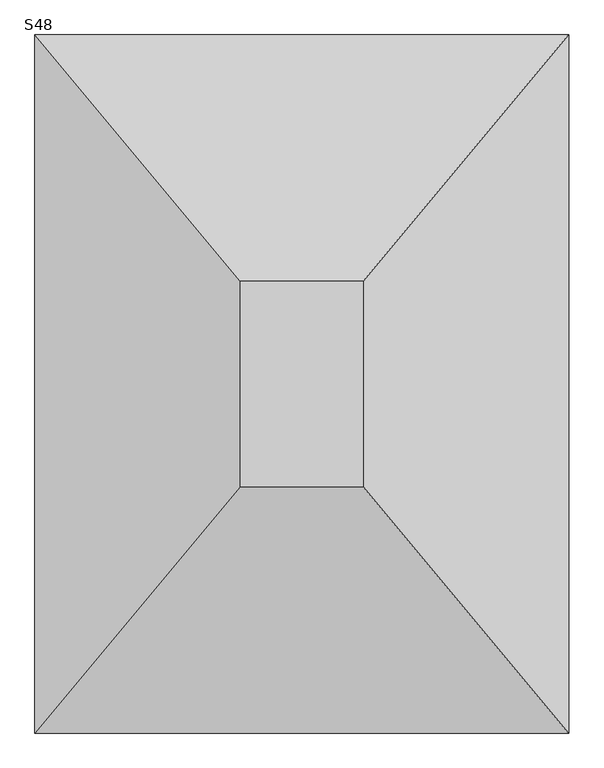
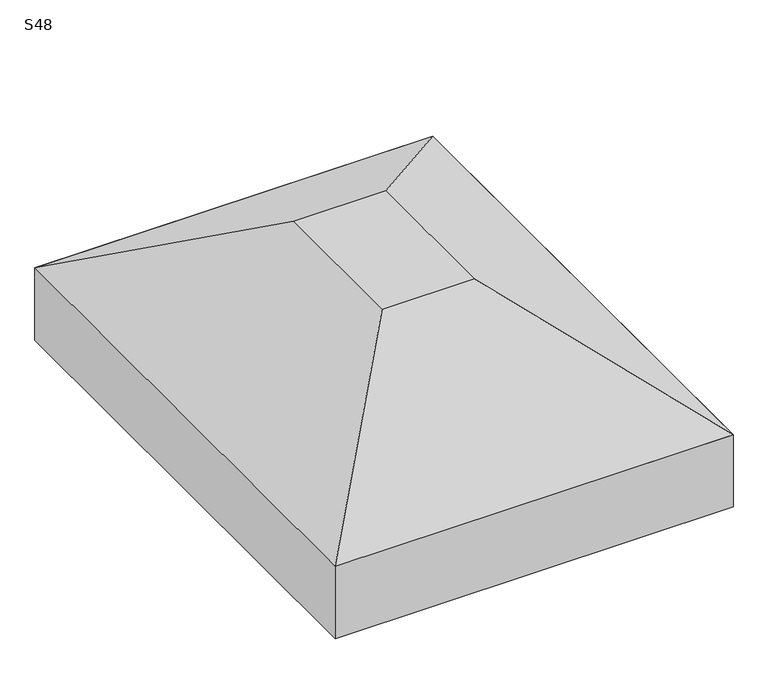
"""IFC4 building model written with IfcOpenShell, lengths in millimetres: fastener geometry, TQS - Sapata : S48."""

import ifcopenshell
import ifcopenshell.guid

model = None  # the IFC model being written
_history = None  # IfcOwnerHistory: only IFC2X3 demands one
_inside = {}  # id of a spatial element -> (the spatial element, [elements in it])
_under = {}  # id of a project, library or spatial element -> (it, [spatial elements below it])
_declared = {}  # id of a project -> (the project, [libraries it declares])
_typed = {}  # id of a type object -> (the type object, [elements of that type])
_made_of = {}  # id of a material, layer set ... -> (it, [elements and type objects made of it])


def new_model(schema):
    """Start an empty IFC model of exactly this schema.

    Asked for "IFC4X3", IfcOpenShell would pick the latest addendum, in which some entities
    have other attributes; the version numbers below select the first issue.
    IFC2X3 requires an IfcOwnerHistory on every rooted entity: one is made here for all.
    """
    global model, _history
    if schema == "IFC4X3":
        model = ifcopenshell.file(schema_version=(4, 3, 0, 0))
    else:
        model = ifcopenshell.file(schema=schema)
    _inside.clear()
    _under.clear()
    _declared.clear()
    _typed.clear()
    _made_of.clear()
    _history = None
    if model.schema == "IFC2X3":
        org = make("IfcOrganization", Name="unknown")
        user = make(
            "IfcPersonAndOrganization",
            ThePerson=make("IfcPerson", FamilyName="unknown"),
            TheOrganization=org,
        )
        app = make(
            "IfcApplication",
            ApplicationDeveloper=org,
            Version="unknown",
            ApplicationFullName="unknown",
            ApplicationIdentifier="unknown",
        )
        _history = make(
            "IfcOwnerHistory",
            OwningUser=user,
            OwningApplication=app,
            ChangeAction="ADDED",
            CreationDate=0,
        )
    return model


def make(cls, **values):
    """One entity of the class cls with the attributes given. An attribute that is None is left unset."""
    return model.create_entity(
        cls, **{name: value for name, value in values.items() if value is not None}
    )


def rooted(cls, **values):
    """An entity with a GlobalId (a new one), such as an element, a storey or a relation."""
    return make(cls, GlobalId=ifcopenshell.guid.new(), OwnerHistory=_history, **values)


def si_unit(unit_type, name, prefix=None):
    """IfcSIUnit, for example si_unit("LENGTHUNIT", "METRE", prefix="MILLI")."""
    return make("IfcSIUnit", UnitType=unit_type, Prefix=prefix, Name=name)


def assignment(units):
    """IfcUnitAssignment: the units of a project."""
    return None if units is None else make("IfcUnitAssignment", Units=units)


def point(xyz):
    """IfcCartesianPoint."""
    return None if xyz is None else make("IfcCartesianPoint", Coordinates=xyz)


def direction(xyz):
    """IfcDirection."""
    return None if xyz is None else make("IfcDirection", DirectionRatios=xyz)


def frame(location, z_axis=None, x_axis=None):
    """IfcAxis2Placement3D, a coordinate frame: its origin and axes. An axis left out is left unset."""
    return make(
        "IfcAxis2Placement3D",
        Location=point(location),
        Axis=direction(z_axis),
        RefDirection=direction(x_axis),
    )


def origin():
    """The frame at (0, 0, 0) with its axes left unset."""
    return frame((0.0, 0.0, 0.0))


def place(relative_to, where):
    """IfcLocalPlacement: puts the frame where relative to a parent placement (None: the world)."""
    return make(
        "IfcLocalPlacement", PlacementRelTo=relative_to, RelativePlacement=where
    )


def context(
    kind, dimensions, precision=None, world=None, true_north=None, identifier=None
):
    """IfcGeometricRepresentationContext, for example the 3D "Model" context."""
    return make(
        "IfcGeometricRepresentationContext",
        ContextIdentifier=identifier,
        ContextType=kind,
        CoordinateSpaceDimension=dimensions,
        Precision=precision,
        WorldCoordinateSystem=world,
        TrueNorth=true_north,
    )


def project(units=None, contexts=None):
    """IfcProject with its units and contexts."""
    return rooted(
        "IfcProject",
        Name="project",
        RepresentationContexts=contexts,
        UnitsInContext=assignment(units),
    )


def spatial(cls, under=None, at=None, **own):
    """A site, building, storey or space (cls), placed at a placement, below another one or the project."""
    s = rooted(cls, ObjectPlacement=at, **own)
    if under is not None:
        _under.setdefault(under.id(), (under, []))[1].append(s)
    return s


def polyline(points):
    """IfcPolyline through the points."""
    return make("IfcPolyline", Points=[point(p) for p in points])


def outline(outer, holes=None, kind="AREA"):
    """IfcArbitraryClosedProfileDef: a profile drawn as a closed curve; with holes, ...WithVoids."""
    if holes is None:
        return make("IfcArbitraryClosedProfileDef", ProfileType=kind, OuterCurve=outer)
    return make(
        "IfcArbitraryProfileDefWithVoids",
        ProfileType=kind,
        OuterCurve=outer,
        InnerCurves=holes,
    )


def extrude(swept, where, along, depth):
    """IfcExtrudedAreaSolid: the profile swept, set in the frame where, extruded along a direction by depth."""
    return make(
        "IfcExtrudedAreaSolid",
        SweptArea=swept,
        Position=where,
        ExtrudedDirection=direction(along),
        Depth=depth,
    )


def faces_of(points, faces, orient=None, outer=None):
    """IfcFace entities. A face is a list of loops; a loop is a list of indices into points, from 0.

    orient and outer hold one flag for each loop. By default every Orientation is true, the
    first loop of a face is its IfcFaceOuterBound and the others are IfcFaceBound.
    """
    made = []
    for i, loops in enumerate(faces):
        bounds = []
        for j, loop in enumerate(loops):
            is_outer = j == 0 if outer is None else outer[i][j]
            bounds.append(
                make(
                    "IfcFaceOuterBound" if is_outer else "IfcFaceBound",
                    Bound=make("IfcPolyLoop", Polygon=[points[k] for k in loop]),
                    Orientation=True if orient is None else orient[i][j],
                )
            )
        made.append(make("IfcFace", Bounds=bounds))
    return made


def faceted_brep(points, faces, orient=None, outer=None, voids=None):
    """IfcFacetedBrep: a solid bounded by flat faces; with voids (closed shells), ...WithVoids."""
    shared = [point(p) for p in points]
    hull = make("IfcClosedShell", CfsFaces=faces_of(shared, faces, orient, outer))
    if voids is None:
        return make("IfcFacetedBrep", Outer=hull)
    return make(
        "IfcFacetedBrepWithVoids",
        Outer=hull,
        Voids=[
            make(cls, CfsFaces=faces_of(shared, fs, o, b)) for cls, fs, o, b in voids
        ],
    )


def shape(context_of_items, identifier, shape_type, items):
    """IfcShapeRepresentation: the items that make up one representation, for example the "Body"."""
    return make(
        "IfcShapeRepresentation",
        ContextOfItems=context_of_items,
        RepresentationIdentifier=identifier,
        RepresentationType=shape_type,
        Items=items,
    )


def source(mapping_origin, context_of_items, identifier, shape_type, items):
    """IfcRepresentationMap: a shape defined once, which mapped items show again and again."""
    return make(
        "IfcRepresentationMap",
        MappingOrigin=mapping_origin,
        MappedRepresentation=shape(context_of_items, identifier, shape_type, items),
    )


def transform(
    local_origin,
    x_axis=None,
    y_axis=None,
    z_axis=None,
    scale=None,
    scale2=None,
    scale3=None,
    uniform=True,
):
    """IfcCartesianTransformationOperator3D, or its non-uniform kind. x_axis, y_axis, z_axis: its Axis1, 2, 3."""
    if uniform:
        return make(
            "IfcCartesianTransformationOperator3D",
            Axis1=direction(x_axis),
            Axis2=direction(y_axis),
            LocalOrigin=point(local_origin),
            Scale=scale,
            Axis3=direction(z_axis),
        )
    return make(
        "IfcCartesianTransformationOperator3DnonUniform",
        Axis1=direction(x_axis),
        Axis2=direction(y_axis),
        LocalOrigin=point(local_origin),
        Scale=scale,
        Axis3=direction(z_axis),
        Scale2=scale2,
        Scale3=scale3,
    )


def mapped(mapping_source, mapping_target):
    """IfcMappedItem: shows the shape of a source again, moved by a transform."""
    return make(
        "IfcMappedItem", MappingSource=mapping_source, MappingTarget=mapping_target
    )


def made_of(thing, what):
    """Note that an element or type object is made of a material, layer set ...; save() writes the relation."""
    if what is not None:
        _made_of.setdefault(what.id(), (what, []))[1].append(thing)
    return thing


def element(
    cls,
    number,
    at=None,
    inside=None,
    cuts=None,
    type_object=None,
    material=None,
    context=None,
    identifier="Body",
    shape_type=None,
    held_by="IfcProductDefinitionShape",
    body=None,
    shapes=None,
    **own,
):
    """One element of the class cls, such as IfcWall. Its Tag is "e" and its number.

    at: its placement. inside: the storey or other place that contains it. cuts: it is an
    opening in that element (IfcRelVoidsElement). A single representation is given by context,
    identifier, shape_type and body (its items); several are given by shapes. held_by: the class
    of the entity that holds the representations. save() writes the other relations.
    """
    e = rooted(cls, Tag="e%d" % number, ObjectPlacement=at, **own)
    if body is not None:
        shapes = [shape(context, identifier, shape_type, body)]
    if shapes is not None:
        e.Representation = make(held_by, Representations=shapes)
    if inside is not None:
        _inside.setdefault(inside.id(), (inside, []))[1].append(e)
    if cuts is not None:
        rooted(
            "IfcRelVoidsElement", RelatingBuildingElement=cuts, RelatedOpeningElement=e
        )
    if type_object is not None:
        _typed.setdefault(type_object.id(), (type_object, []))[1].append(e)
    return made_of(e, material)


def aggregate(whole, parts):
    """IfcRelAggregates: a whole, such as a stair, and the parts it consists of."""
    return rooted("IfcRelAggregates", RelatingObject=whole, RelatedObjects=parts)


def save(model, path):
    """Write the relations noted so far, then the file.

    IfcRelAggregates (storeys below a building ...), IfcRelContainedInSpatialStructure (elements
    in a storey), IfcRelDefinesByType, IfcRelAssociatesMaterial and IfcRelDeclares: one each for
    every whole, place, type object, material and project.
    """
    for whole, parts in _under.values():
        aggregate(whole, parts)
    for where, things in _inside.values():
        rooted(
            "IfcRelContainedInSpatialStructure",
            RelatedElements=things,
            RelatingStructure=where,
        )
    for kind, things in _typed.values():
        rooted("IfcRelDefinesByType", RelatedObjects=things, RelatingType=kind)
    for what, things in _made_of.values():
        rooted("IfcRelAssociatesMaterial", RelatedObjects=things, RelatingMaterial=what)
    for by, libraries in _declared.values():
        rooted("IfcRelDeclares", RelatingContext=by, RelatedDefinitions=libraries)
    model.write(path)


def s48_2effd727(model_context):
    return source(origin(), model_context, "Body", "SolidModel", [
        faceted_brep([(-50.0, 50.0, 0.0), (-350.0, 50.0, 0.0), (-350.0, -450.0, 0.0), (-50.0, -450.0, 0.0), (450.0, 650.0, -350.0), (450.0, -1050.0, -350.0), (-850.0, -1050.0, -350.0), (-850.0, 650.0, -350.0)], [[[0, 1, 2, 3]], [[4, 5, 6, 7]], [[4, 7, 1, 0]], [[7, 6, 2, 1]], [[6, 5, 3, 2]], [[5, 4, 0, 3]]]),
        extrude(outline(polyline([(450.0, 650.0), (450.0, -1050.0), (-850.0, -1050.0), (-850.0, 650.0), (450.0, 650.0)])), frame((0.0, 0.0, -600.0), z_axis=(0.0, 0.0, 1.0), x_axis=(1.0, 0.0, 0.0)), (0.0, 0.0, 1.0), 250.0),
    ])


if __name__ == "__main__":
    model = new_model("IFC4")
    model_context = context("Model", 3, world=origin())
    ifc_project = project(units=[si_unit("LENGTHUNIT", "METRE", prefix="MILLI")], contexts=[model_context])
    site = spatial("IfcSite", under=ifc_project)
    building = spatial("IfcBuilding", under=site)
    placement = place(None, origin())
    s48_shape = s48_2effd727(model_context)
    element("IfcFastener", 1, ObjectType="TQS - Sapata : S48", at=placement, inside=building, context=model_context, shape_type="MappedRepresentation", body=[
        mapped(s48_shape, transform((0.0, 0.0, 0.0), x_axis=(1.0, 0.0, 0.0), y_axis=(0.0, 1.0, 0.0), z_axis=(0.0, 0.0, 1.0))),
    ])
    save(model, "model.ifc")
